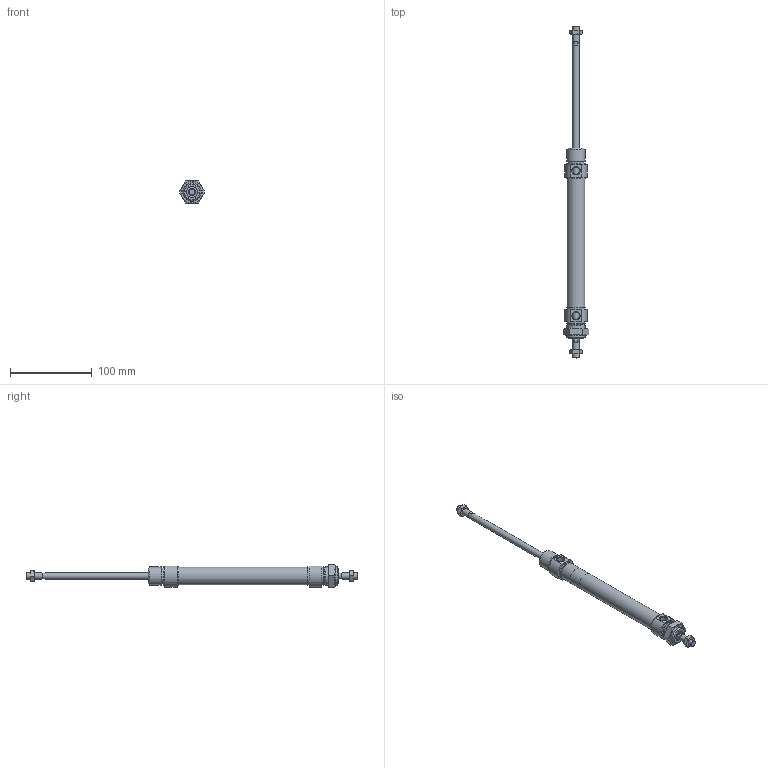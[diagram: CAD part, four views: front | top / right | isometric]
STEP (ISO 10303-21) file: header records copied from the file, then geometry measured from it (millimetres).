
FILE_DESCRIPTION(/* description */ ('Unknown'),/* implementation_level */ '2;1');
FILE_NAME(/* name */ 'RBM 20_125',/* time_stamp */ '2024-08-29T11:18:55+02:00',/* author */ ('Unknown'),/* organization */ ('Unknown'),/* preprocessor_version */ 'ST-DEVELOPER v16.7',/* originating_system */ 'Solid Edge',/* authorisation */ 'Unknown');
FILE_SCHEMA (('AUTOMOTIVE_DESIGN {1 0 10303 214 3 1 1}'));
Length unit declared in the file: millimetre
Products named in the file (6): RBM 20_125; Profilrohr; Kolbenstange; Kit; Mutter_1; Mutter_2
Assembly tree (8 placements, depth 2):
  RBM 20_125
    Profilrohr
    Kolbenstange  x2
    Kit  x2
    Mutter_1  x2
    Mutter_2
Bounding box: 31.18 x 405 x 27 mm (x, y, z)
Volume: 70305.8 mm3; surface area: 46067.1 mm2
Topology: 8 solids, 8 shells, 189 faces, 375 edges, 230 vertices
Faces by surface type: plane 74, cone 62, cylinder 39, torus 14
Full cylindrical faces by diameter (mm): 6.647 x2, 8 x4, 8.5 x2, 8.56 x2, 8.566 x2, 9.1 x2, 12 x2, 12.1 x2, 14.1 x2, 14.2 x2, 19.7 x2, 20 x3, 20.376 x1, 21.27 x1, 22 x4, 22.2 x2
Entity records: 3209 total; most frequent: CARTESIAN_POINT 491, DIRECTION 424, ORIENTED_EDGE 306, AXIS2_PLACEMENT_3D 198, EDGE_LOOP 170, FACE_BOUND 170, EDGE_CURVE 153, VERTEX_POINT 119
